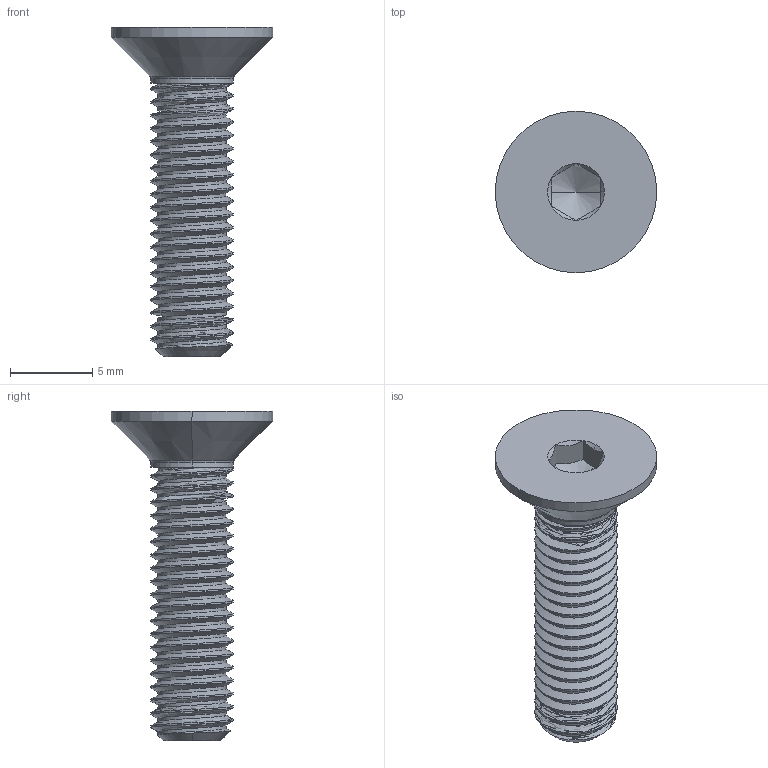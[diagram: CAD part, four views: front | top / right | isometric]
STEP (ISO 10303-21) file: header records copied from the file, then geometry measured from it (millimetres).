
FILE_DESCRIPTION (( 'STEP AP203' ), '1' );
FILE_NAME ('M5x20_DIN7991.STEP', '2025-11-14T09:38:32', ( '' ), ( '' ), 'SwSTEP 2.0', 'SolidWorks 2022', '' );
FILE_SCHEMA (( 'CONFIG_CONTROL_DESIGN' ));
Length unit declared in the file: millimetre
Products named in the file (1): M5x20_DIN7991
Bounding box: 9.8 x 9.8 x 20 mm (x, y, z)
Volume: 412.7 mm3; surface area: 621.7 mm2
Topology: 2 solids, 2 shells, 73 faces, 201 edges, 131 vertices
Faces by surface type: cylinder 44, cone 14, plane 10, bspline 3, torus 2
Entity records: 7731 total; most frequent: CARTESIAN_POINT 6092, ORIENTED_EDGE 398, DIRECTION 257, EDGE_CURVE 199, VERTEX_POINT 131, AXIS2_PLACEMENT_3D 94, EDGE_LOOP 74, FACE_OUTER_BOUND 73
